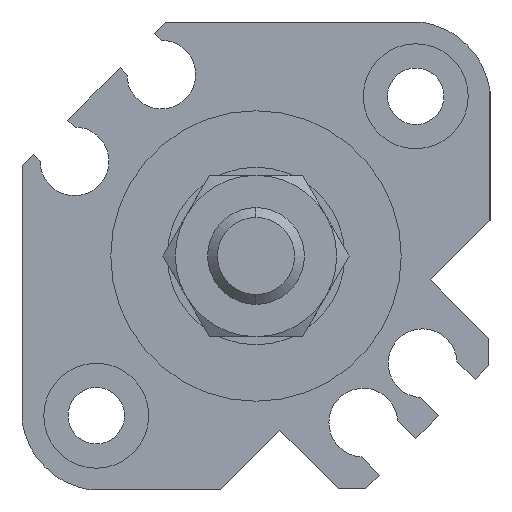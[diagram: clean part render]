
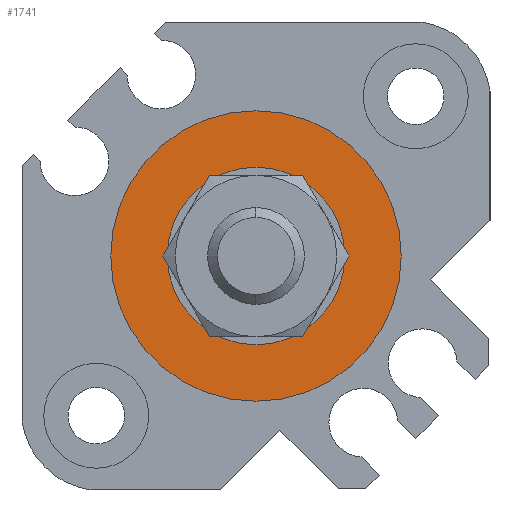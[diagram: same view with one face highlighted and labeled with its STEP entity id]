
A CAD part, left-side view. The second image highlights one B-rep face of the part: STEP entity #1741.
In plain terms, the highlighted planar face has unit normal (-1, 0, 0).
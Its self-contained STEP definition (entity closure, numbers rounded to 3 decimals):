
#13 = CIRCLE ( 'NONE', #4424, 5.5 ) ;
#23 = FACE_BOUND ( 'NONE', #166, .T. ) ;
#166 = EDGE_LOOP ( 'NONE', ( #184, #3426 ) ) ;
#184 = ORIENTED_EDGE ( 'NONE', *, *, #4566, .T. ) ;
#381 = CIRCLE ( 'NONE', #3837, 9. ) ;
#426 = EDGE_CURVE ( 'NONE', #3160, #1713, #13, .T. ) ;
#605 = DIRECTION ( 'NONE',  ( 0., 0., -1. ) ) ;
#816 = CARTESIAN_POINT ( 'NONE',  ( 1.1, 0., 0. ) ) ;
#864 = DIRECTION ( 'NONE',  ( 0., 1., 0. ) ) ;
#927 = CIRCLE ( 'NONE', #1862, 9. ) ;
#1059 = DIRECTION ( 'NONE',  ( 1., 0., 0. ) ) ;
#1258 = EDGE_CURVE ( 'NONE', #1951, #2185, #381, .T. ) ;
#1489 = DIRECTION ( 'NONE',  ( 0., 0., -1. ) ) ;
#1667 = DIRECTION ( 'NONE',  ( 1., 0., 0. ) ) ;
#1713 = VERTEX_POINT ( 'NONE', #3634 ) ;
#1741 = ADVANCED_FACE ( 'NONE', ( #3226, #23 ), #4832, .F. ) ;
#1862 = AXIS2_PLACEMENT_3D ( 'NONE', #4233, #3023, #605 ) ;
#1951 = VERTEX_POINT ( 'NONE', #3438 ) ;
#1986 = EDGE_CURVE ( 'NONE', #2185, #1951, #927, .T. ) ;
#2185 = VERTEX_POINT ( 'NONE', #3971 ) ;
#2559 = AXIS2_PLACEMENT_3D ( 'NONE', #816, #1667, #864 ) ;
#2683 = DIRECTION ( 'NONE',  ( 0., 0., -1. ) ) ;
#2786 = ORIENTED_EDGE ( 'NONE', *, *, #1986, .F. ) ;
#3023 = DIRECTION ( 'NONE',  ( 1., 0., 0. ) ) ;
#3048 = CARTESIAN_POINT ( 'NONE',  ( 1.1, 0., 0. ) ) ;
#3076 = CARTESIAN_POINT ( 'NONE',  ( 1.1, 0., -5.5 ) ) ;
#3160 = VERTEX_POINT ( 'NONE', #3076 ) ;
#3226 = FACE_OUTER_BOUND ( 'NONE', #3604, .T. ) ;
#3426 = ORIENTED_EDGE ( 'NONE', *, *, #426, .T. ) ;
#3438 = CARTESIAN_POINT ( 'NONE',  ( 1.1, 0., -9. ) ) ;
#3572 = CARTESIAN_POINT ( 'NONE',  ( 1.1, 0., 0. ) ) ;
#3604 = EDGE_LOOP ( 'NONE', ( #2786, #4665 ) ) ;
#3634 = CARTESIAN_POINT ( 'NONE',  ( 1.1, 0., 5.5 ) ) ;
#3837 = AXIS2_PLACEMENT_3D ( 'NONE', #3048, #4656, #3918 ) ;
#3912 = DIRECTION ( 'NONE',  ( 1., 0., 0. ) ) ;
#3918 = DIRECTION ( 'NONE',  ( 0., 0., -1. ) ) ;
#3971 = CARTESIAN_POINT ( 'NONE',  ( 1.1, 0., 9. ) ) ;
#4223 = CIRCLE ( 'NONE', #4907, 5.5 ) ;
#4233 = CARTESIAN_POINT ( 'NONE',  ( 1.1, 0., 0. ) ) ;
#4424 = AXIS2_PLACEMENT_3D ( 'NONE', #3572, #1059, #2683 ) ;
#4566 = EDGE_CURVE ( 'NONE', #1713, #3160, #4223, .T. ) ;
#4656 = DIRECTION ( 'NONE',  ( 1., 0., 0. ) ) ;
#4665 = ORIENTED_EDGE ( 'NONE', *, *, #1258, .F. ) ;
#4735 = CARTESIAN_POINT ( 'NONE',  ( 1.1, 0., 0. ) ) ;
#4832 = PLANE ( 'NONE',  #2559 ) ;
#4907 = AXIS2_PLACEMENT_3D ( 'NONE', #4735, #3912, #1489 ) ;
